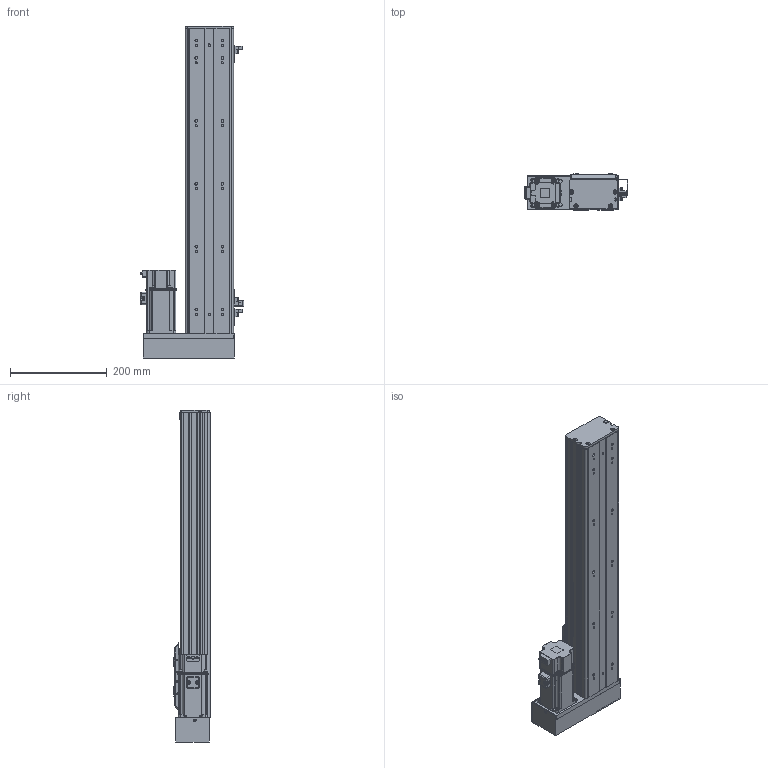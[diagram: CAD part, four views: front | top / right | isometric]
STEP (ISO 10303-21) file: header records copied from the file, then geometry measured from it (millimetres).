
FILE_DESCRIPTION (( 'STEP AP203' ), '1' );
FILE_NAME ('BOSW100-450-1610-1P-RM-M400W-O-S3（方程式2016）.step', '2020-10-10T07:17:22', ( '' ), ( '' ), 'SwSTEP 2.0', 'SolidWorks 2016', '' );
FILE_SCHEMA (( 'CONFIG_CONTROL_DESIGN' ));
Length unit declared in the file: millimetre
Products named in the file (14): BOSW&TW-100-1P-賑雄釱欶; boS-100-LM&RM-三菱M400W马达板-宽轨; 新结构AIMSW-100-1P-宽&高轨共用-滑动座上组件; BOSW-100-綴裔啣; S400W(SMA-L040); 放大器内置U型微型光电传感器PM-L65; BOSW&TW-100-詩湍揤沭(陔賦凳); BOSW-100-1P-DM-宽轨-侧板-450客户图纸; BOSW&TW-100-俋离覜茼え; AIMS(W)-100-LM&RM-肮祭謫欶; 俋境嫖覜嘐隅啣; BOSW100-450-1610-1P-RM-M400W-O-S3（方程式2016）; BOSW-100-1P-DM-450諦誧芞; BOSW-100-1P-DM-宽轨-钢带-450客户图纸
Assembly tree (19 placements, depth 2):
  BOSW100-450-1610-1P-RM-M400W-O-S3（方程式2016）
    BOSW-100-1P-DM-450諦誧芞
    BOSW-100-綴裔啣
    新结构AIMSW-100-1P-宽&高轨共用-滑动座上组件
    S400W(SMA-L040)
    BOSW&TW-100-詩湍揤沭(陔賦凳)  x2
    BOSW&TW-100-1P-賑雄釱欶
    BOSW-100-1P-DM-宽轨-侧板-450客户图纸  x2
    BOSW-100-1P-DM-宽轨-钢带-450客户图纸
    AIMS(W)-100-LM&RM-肮祭謫欶
    boS-100-LM&RM-三菱M400W马达板-宽轨
    俋境嫖覜嘐隅啣  x3
    放大器内置U型微型光电传感器PM-L65  x3
    BOSW&TW-100-俋离覜茼え
Bounding box: 213.4 x 75 x 686 mm (x, y, z)
Volume: 1632998.6 mm3; surface area: 786637.7 mm2
Topology: 19 solids, 20 shells, 2521 faces, 6651 edges, 4243 vertices
Faces by surface type: plane 1241, cylinder 794, bspline 271, cone 167, torus 36, sphere 12
Entity records: 69100 total; most frequent: CARTESIAN_POINT 20740, ORIENTED_EDGE 9842, DIRECTION 9525, EDGE_CURVE 4921, AXIS2_PLACEMENT_3D 3373, VERTEX_POINT 3145, VECTOR 2779, LINE 2779
